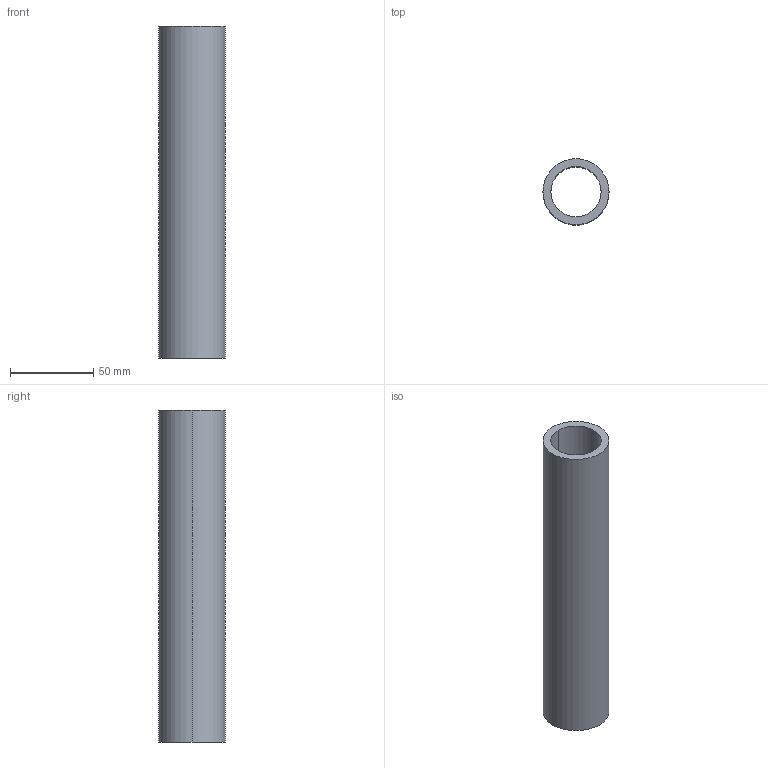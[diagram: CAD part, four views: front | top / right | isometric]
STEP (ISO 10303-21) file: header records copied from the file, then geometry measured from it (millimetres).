
FILE_DESCRIPTION (( 'STEP AP203' ), '1' );
FILE_NAME ('19-0408-56_outokumpu.step', '2015-08-11T09:42:03', ( '' ), ( '' ), 'SwSTEP 2.0', 'SolidWorks 2008', '' );
FILE_SCHEMA (( 'CONFIG_CONTROL_DESIGN' ));
Length unit declared in the file: millimetre
Products named in the file (1): 19-0408-56_outokumpu
Bounding box: 39.8 x 39.8 x 200 mm (x, y, z)
Volume: 101809.2 mm3; surface area: 45156.2 mm2
Topology: 1 solids, 1 shells, 12 faces, 26 edges, 16 vertices
Faces by surface type: cylinder 6, cone 4, plane 2
Entity records: 415 total; most frequent: DIRECTION 68, CARTESIAN_POINT 55, ORIENTED_EDGE 52, AXIS2_PLACEMENT_3D 29, EDGE_CURVE 26, VERTEX_POINT 16, CIRCLE 16, EDGE_LOOP 14
